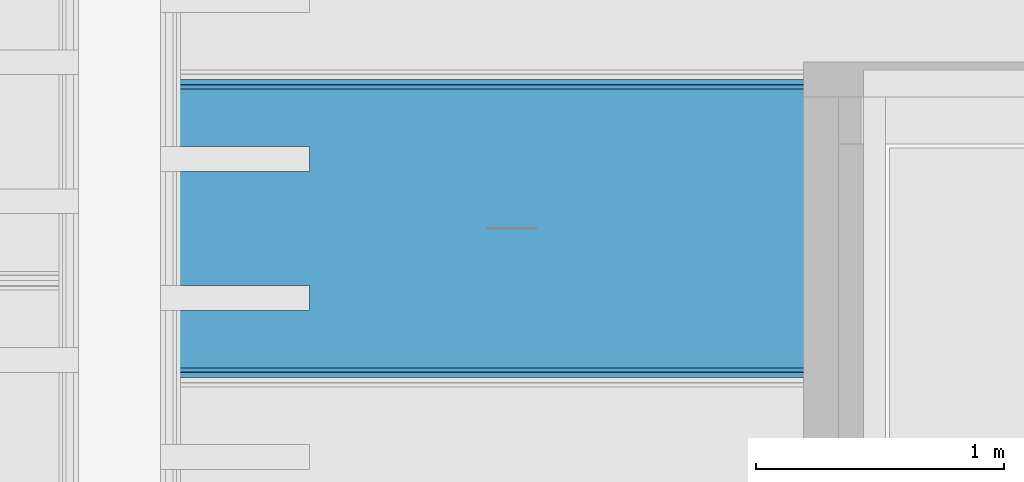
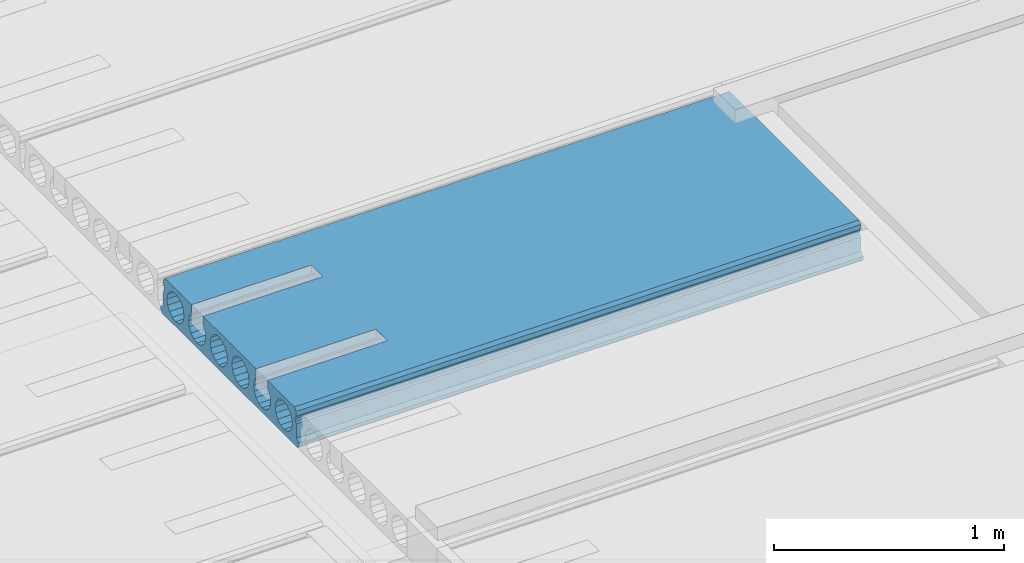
# One storey, part 129 of 230: 1 beam.
"""IFC4X3_ADD2 building model written with IfcOpenShell, lengths in millimetres."""

from ifc_helpers import new_model, si_unit, direction, origin_with_axes, place, context, subcontext, project, spatial, polygons, element, save


model = new_model("IFC4X3_ADD2")

# Units and contexts
model_context = context("Model", 3, precision=1e-05, world=origin_with_axes(), true_north=direction((0.0, 1.0)))
body_context = subcontext(model_context, "Body", "Model", "MODEL_VIEW")
ifc_project = project(units=[si_unit("LENGTHUNIT", "METRE", prefix="MILLI"), si_unit("AREAUNIT", "SQUARE_METRE"), si_unit("VOLUMEUNIT", "CUBIC_METRE"), si_unit("PLANEANGLEUNIT", "RADIAN"), si_unit("TIMEUNIT", "SECOND"), si_unit("MASSUNIT", "GRAM")], contexts=[model_context])

# Site, building, storey
site_placement = place(None, origin_with_axes())
site = spatial("IfcSite", under=ifc_project, at=site_placement, Name="Site", CompositionType="ELEMENT")
building_placement = place(site_placement, origin_with_axes())
building = spatial("IfcBuilding", under=site, at=building_placement, Name="IFC Building Story")
storey_placement = place(building_placement, origin_with_axes())
storey = spatial("IfcBuildingStorey", under=building, at=storey_placement, Name="ETAGE 00 (0)", Elevation=0.0)

# Beam
beam_placement = place(storey_placement, origin_with_axes())
element("IfcBeam", 1, at=beam_placement, inside=storey, Name="HOLLOWCORE SLAB", ObjectType="EB_SP200", context=body_context, shape_type="Tessellation", body=[
    polygons([(40131.189, 20149.0, 3999.9999909), (40131.189, 18971.0, 3999.9999909), (40131.189, 18960.0, 4012.9999909), (40131.189, 18960.0, 4029.9999909), (40131.189, 18980.0, 4044.9999909), (40131.189, 18981.45001220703, 4119.9999909), (40131.189, 18988.98262147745, 4128.676139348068), (40131.189, 18991.83993001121, 4139.805000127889), (40131.189, 18989.41863641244, 4151.036789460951), (40131.189, 18982.22998046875, 4159.9999909), (40131.189, 18982.71129616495, 4185.002769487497), (40131.189, 18998.0, 4199.9999909), (40131.189, 19230.0, 4199.9999909), (40131.189, 19230.0, 4155.806158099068), (40131.189, 19225.32054480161, 4152.679446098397), (40131.189, 19209.17097482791, 4128.509906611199), (40131.189, 19203.5, 4099.9999909), (40131.189, 19209.17097482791, 4071.490075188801), (40131.189, 19225.32054480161, 4047.320535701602), (40131.189, 19249.4900842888, 4031.170965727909), (40131.189, 19278.0, 4025.4999909), (40131.189, 19306.5099157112, 4031.170965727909), (40131.189, 19330.6794551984, 4047.320535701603), (40131.189, 19346.82902517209, 4071.490075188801), (40131.189, 19352.5, 4099.9999909), (40131.189, 19346.82902517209, 4128.509906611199), (40131.189, 19330.6794551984, 4152.679446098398), (40131.189, 19330.0, 4153.133443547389), (40131.189, 19330.0, 4199.9999909), (40131.189, 19790.0, 4199.9999909), (40131.189, 19790.0, 4153.133443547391), (40131.189, 19789.32054480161, 4152.679446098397), (40131.189, 19773.17097482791, 4128.509906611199), (40131.189, 19767.5, 4099.9999909), (40131.189, 19773.17097482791, 4071.490075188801), (40131.189, 19789.3205448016, 4047.320535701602), (40131.189, 19813.4900842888, 4031.170965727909), (40131.189, 19842.0, 4025.4999909), (40131.189, 19870.5099157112, 4031.170965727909), (40131.189, 19894.6794551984, 4047.320535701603), (40131.189, 19910.82902517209, 4071.490075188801), (40131.189, 19916.5, 4099.9999909), (40131.189, 19910.82902517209, 4128.509906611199), (40131.189, 19894.6794551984, 4152.679446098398), (40131.189, 19890.0, 4155.806158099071), (40131.189, 19890.0, 4199.9999909), (40131.189, 20122.0, 4199.9999909), (40131.189, 20137.28870383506, 4185.002769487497), (40131.189, 20137.77001953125, 4159.9999909), (40131.189, 20130.58136358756, 4151.036789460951), (40131.189, 20128.1600699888, 4139.805000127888), (40131.189, 20131.01737852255, 4128.676139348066), (40131.189, 20138.54998779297, 4119.9999909), (40131.189, 20140.0, 4044.9999909), (40131.189, 20160.0, 4029.9999909), (40131.189, 20160.0, 4012.9999909), (40131.189, 20082.6794551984, 4152.679446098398), (40131.189, 20058.5099157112, 4168.829016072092), (40131.189, 20030.0, 4174.4999909), (40131.189, 20001.4900842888, 4168.829016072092), (40131.189, 19977.32054480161, 4152.679446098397), (40131.189, 19961.17097482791, 4128.509906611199), (40131.189, 19955.5, 4099.9999909), (40131.189, 19961.17097482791, 4071.490075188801), (40131.189, 19977.3205448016, 4047.320535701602), (40131.189, 20001.4900842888, 4031.170965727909), (40131.189, 20030.0, 4025.4999909), (40131.189, 20058.5099157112, 4031.170965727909), (40131.189, 20082.6794551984, 4047.320535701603), (40131.189, 20098.82902517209, 4071.490075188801), (40131.189, 20104.5, 4099.9999909), (40131.189, 20098.82902517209, 4128.509906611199), (40131.189, 19706.6794551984, 4152.679446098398), (40131.189, 19682.5099157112, 4168.829016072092), (40131.189, 19654.0, 4174.4999909), (40131.189, 19625.4900842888, 4168.829016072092), (40131.189, 19601.32054480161, 4152.679446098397), (40131.189, 19585.17097482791, 4128.509906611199), (40131.189, 19579.5, 4099.9999909), (40131.189, 19585.17097482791, 4071.490075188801), (40131.189, 19601.32054480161, 4047.320535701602), (40131.189, 19625.4900842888, 4031.170965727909), (40131.189, 19654.0, 4025.4999909), (40131.189, 19682.5099157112, 4031.170965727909), (40131.189, 19706.6794551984, 4047.320535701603), (40131.189, 19722.82902517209, 4071.490075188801), (40131.189, 19728.5, 4099.9999909), (40131.189, 19722.82902517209, 4128.509906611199), (40131.189, 19518.6794551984, 4152.679446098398), (40131.189, 19494.5099157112, 4168.829016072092), (40131.189, 19466.0, 4174.4999909), (40131.189, 19437.4900842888, 4168.829016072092), (40131.189, 19413.32054480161, 4152.679446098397), (40131.189, 19397.17097482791, 4128.509906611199), (40131.189, 19391.5, 4099.9999909), (40131.189, 19397.17097482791, 4071.490075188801), (40131.189, 19413.32054480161, 4047.320535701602), (40131.189, 19437.4900842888, 4031.170965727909), (40131.189, 19466.0, 4025.4999909), (40131.189, 19494.5099157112, 4031.170965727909), (40131.189, 19518.6794551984, 4047.320535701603), (40131.189, 19534.82902517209, 4071.490075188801), (40131.189, 19540.5, 4099.9999909), (40131.189, 19534.8290251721, 4128.509906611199), (40131.189, 19142.6794551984, 4152.679446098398), (40131.189, 19118.5099157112, 4168.829016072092), (40131.189, 19090.0, 4174.4999909), (40131.189, 19061.49008428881, 4168.829016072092), (40131.189, 19037.3205448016, 4152.679446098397), (40131.189, 19021.17097482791, 4128.509906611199), (40131.189, 19015.5, 4099.9999909), (40131.189, 19021.17097482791, 4071.490075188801), (40131.189, 19037.32054480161, 4047.320535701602), (40131.189, 19061.49008428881, 4031.170965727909), (40131.189, 19090.0, 4025.4999909), (40131.189, 19118.5099157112, 4031.170965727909), (40131.189, 19142.6794551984, 4047.320535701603), (40131.189, 19158.82902517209, 4071.490075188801), (40131.189, 19164.5, 4099.9999909), (40131.189, 19158.82902517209, 4128.509906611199), (42962.189, 20149.0, 3999.9999909), (42962.189, 20160.0, 4012.9999909), (42962.189, 20160.0, 4029.9999909), (42962.189, 20140.0, 4044.9999909), (42962.189, 20138.54998779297, 4119.9999909), (42962.189, 20131.01737852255, 4128.676139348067), (42962.189, 20128.16006998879, 4139.805000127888), (42962.189, 20130.58136358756, 4151.036789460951), (42962.189, 20137.77001953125, 4159.9999909), (42962.189, 20137.28870383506, 4185.002769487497), (42962.189, 20122.0, 4199.9999909), (42962.189, 18998.0, 4199.9999909), (42962.189, 18982.71129616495, 4185.002769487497), (42962.189, 18982.22998046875, 4159.9999909), (42962.189, 18989.41863641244, 4151.036789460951), (42962.189, 18991.83993001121, 4139.805000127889), (42962.189, 18988.98262147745, 4128.676139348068), (42962.189, 18981.45001220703, 4119.9999909), (42962.189, 18980.0, 4044.9999909), (42962.189, 18960.0, 4029.9999909), (42962.189, 18960.0, 4012.9999909), (42962.189, 18971.0, 3999.9999909), (42962.189, 20082.6794551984, 4152.679446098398), (42962.189, 20098.82902517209, 4128.509906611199), (42962.189, 20104.5, 4099.9999909), (42962.189, 20098.82902517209, 4071.490075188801), (42962.189, 20082.6794551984, 4047.320535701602), (42962.189, 20058.5099157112, 4031.170965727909), (42962.189, 20030.0, 4025.4999909), (42962.189, 20001.4900842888, 4031.170965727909), (42962.189, 19977.3205448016, 4047.320535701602), (42962.189, 19961.17097482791, 4071.490075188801), (42962.189, 19955.5, 4099.9999909), (42962.189, 19961.17097482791, 4128.509906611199), (42962.189, 19977.3205448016, 4152.679446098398), (42962.189, 20001.4900842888, 4168.829016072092), (42962.189, 20030.0, 4174.4999909), (42962.189, 20058.5099157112, 4168.829016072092), (42962.189, 19894.6794551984, 4152.679446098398), (42962.189, 19910.82902517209, 4128.509906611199), (42962.189, 19916.5, 4099.9999909), (42962.189, 19910.82902517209, 4071.490075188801), (42962.189, 19894.6794551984, 4047.320535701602), (42962.189, 19870.5099157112, 4031.170965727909), (42962.189, 19842.0, 4025.4999909), (42962.189, 19813.4900842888, 4031.170965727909), (42962.189, 19789.3205448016, 4047.320535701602), (42962.189, 19773.17097482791, 4071.490075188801), (42962.189, 19767.5, 4099.9999909), (42962.189, 19773.17097482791, 4128.509906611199), (42962.189, 19789.3205448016, 4152.679446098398), (42962.189, 19813.4900842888, 4168.829016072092), (42962.189, 19842.0, 4174.4999909), (42962.189, 19870.5099157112, 4168.829016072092), (42962.189, 19706.6794551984, 4152.679446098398), (42962.189, 19722.82902517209, 4128.509906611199), (42962.189, 19728.5, 4099.9999909), (42962.189, 19722.82902517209, 4071.490075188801), (42962.189, 19706.6794551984, 4047.320535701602), (42962.189, 19682.5099157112, 4031.170965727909), (42962.189, 19654.0, 4025.4999909), (42962.189, 19625.4900842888, 4031.170965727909), (42962.189, 19601.3205448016, 4047.320535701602), (42962.189, 19585.17097482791, 4071.490075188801), (42962.189, 19579.5, 4099.9999909), (42962.189, 19585.17097482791, 4128.509906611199), (42962.189, 19601.3205448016, 4152.679446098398), (42962.189, 19625.4900842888, 4168.829016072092), (42962.189, 19654.0, 4174.4999909), (42962.189, 19682.5099157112, 4168.829016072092), (42962.189, 19518.6794551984, 4152.679446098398), (42962.189, 19534.82902517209, 4128.509906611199), (42962.189, 19540.5, 4099.9999909), (42962.189, 19534.82902517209, 4071.490075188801), (42962.189, 19518.6794551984, 4047.320535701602), (42962.189, 19494.5099157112, 4031.170965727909), (42962.189, 19466.0, 4025.4999909), (42962.189, 19437.4900842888, 4031.170965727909), (42962.189, 19413.32054480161, 4047.320535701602), (42962.189, 19397.17097482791, 4071.490075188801), (42962.189, 19391.5, 4099.9999909), (42962.189, 19397.17097482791, 4128.509906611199), (42962.189, 19413.32054480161, 4152.679446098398), (42962.189, 19437.4900842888, 4168.829016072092), (42962.189, 19466.0, 4174.4999909), (42962.189, 19494.5099157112, 4168.829016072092), (42962.189, 19330.6794551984, 4152.679446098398), (42962.189, 19346.82902517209, 4128.509906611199), (42962.189, 19352.5, 4099.9999909), (42962.189, 19346.82902517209, 4071.490075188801), (42962.189, 19330.6794551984, 4047.320535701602), (42962.189, 19306.5099157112, 4031.170965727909), (42962.189, 19278.0, 4025.4999909), (42962.189, 19249.4900842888, 4031.170965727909), (42962.189, 19225.32054480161, 4047.320535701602), (42962.189, 19209.17097482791, 4071.490075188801), (42962.189, 19203.5, 4099.9999909), (42962.189, 19209.17097482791, 4128.509906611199), (42962.189, 19225.32054480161, 4152.679446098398), (42962.189, 19249.4900842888, 4168.829016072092), (42962.189, 19278.0, 4174.4999909), (42962.189, 19306.5099157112, 4168.829016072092), (42962.189, 19142.6794551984, 4152.679446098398), (42962.189, 19158.82902517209, 4128.509906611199), (42962.189, 19164.5, 4099.9999909), (42962.189, 19158.82902517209, 4071.490075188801), (42962.189, 19142.6794551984, 4047.320535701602), (42962.189, 19118.5099157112, 4031.170965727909), (42962.189, 19090.0, 4025.4999909), (42962.189, 19061.49008428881, 4031.170965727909), (42962.189, 19037.32054480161, 4047.320535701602), (42962.189, 19021.17097482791, 4071.490075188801), (42962.189, 19015.5, 4099.9999909), (42962.189, 19021.17097482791, 4128.509906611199), (42962.189, 19037.32054480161, 4152.679446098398), (42962.189, 19061.49008428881, 4168.829016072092), (42962.189, 19090.0, 4174.4999909), (42962.189, 19118.5099157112, 4168.829016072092), (40731.189, 19890.0, 4199.9999909), (40731.189, 19790.0, 4199.9999909), (40731.189, 19330.0, 4199.9999909), (40731.189, 19230.0, 4199.9999909), (40731.189, 19870.50991571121, 4168.82901607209), (40731.189, 19890.0, 4155.806158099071), (40731.189, 19842.0, 4174.4999909), (40731.189, 19813.49008428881, 4168.829016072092), (40731.189, 19790.0, 4153.133443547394), (40731.189, 19306.50991571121, 4168.829016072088), (40731.189, 19330.0, 4153.13344354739), (40731.189, 19278.0, 4174.4999909), (40731.189, 19249.4900842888, 4168.829016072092), (40731.189, 19230.0, 4155.806158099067), (40731.189, 19790.0, 4199.999996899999), (40731.189, 19890.0, 4199.999996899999), (40731.189, 19230.0, 4199.999996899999), (40731.189, 19330.0, 4199.999996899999)], [[[27, 28, 29]], [[92, 93, 26]], [[92, 26, 27]], [[92, 27, 29]], [[29, 91, 92]], [[91, 29, 30]], [[30, 90, 91]], [[30, 89, 90]], [[94, 95, 25]], [[94, 25, 26]], [[26, 93, 94]], [[96, 97, 24]], [[24, 25, 95]], [[24, 95, 96]], [[97, 23, 24]], [[76, 77, 104]], [[76, 104, 89]], [[89, 75, 76]], [[75, 89, 30]], [[30, 74, 75]], [[30, 73, 74]], [[78, 79, 103]], [[78, 103, 104]], [[104, 77, 78]], [[80, 81, 102]], [[102, 103, 79]], [[102, 79, 80]], [[81, 101, 102]], [[88, 73, 30]], [[88, 30, 31]], [[33, 34, 87]], [[33, 87, 88]], [[88, 32, 33]], [[88, 31, 32]], [[35, 36, 86]], [[86, 87, 34]], [[86, 34, 35]], [[36, 85, 86]], [[44, 45, 46]], [[60, 61, 43]], [[60, 43, 44]], [[60, 44, 46]], [[46, 59, 60]], [[46, 47, 59]], [[47, 58, 59]], [[47, 57, 58]], [[62, 63, 42]], [[62, 42, 43]], [[43, 61, 62]], [[64, 65, 41]], [[41, 42, 63]], [[41, 63, 64]], [[50, 51, 72]], [[50, 72, 57]], [[57, 47, 48]], [[57, 48, 49]], [[57, 49, 50]], [[52, 53, 71]], [[52, 71, 72]], [[72, 51, 52]], [[53, 54, 70]], [[53, 70, 71]], [[54, 55, 56]], [[54, 56, 1]], [[1, 69, 70]], [[1, 70, 54]], [[1, 68, 69]], [[1, 67, 68]], [[1, 66, 67]], [[1, 40, 66]], [[40, 41, 65]], [[40, 65, 66]], [[1, 39, 40]], [[1, 38, 39]], [[1, 84, 38]], [[84, 37, 38]], [[84, 85, 36]], [[84, 36, 37]], [[1, 83, 84]], [[1, 100, 83]], [[100, 82, 83]], [[100, 101, 81]], [[100, 81, 82]], [[1, 99, 100]], [[1, 22, 99]], [[22, 98, 99]], [[22, 23, 97]], [[22, 97, 98]], [[1, 21, 22]], [[1, 2, 21]], [[2, 20, 21]], [[2, 19, 20]], [[9, 10, 11]], [[9, 11, 12]], [[109, 110, 8]], [[109, 8, 9]], [[9, 12, 108]], [[9, 108, 109]], [[12, 107, 108]], [[107, 12, 13]], [[13, 106, 107]], [[13, 105, 106]], [[110, 7, 8]], [[112, 113, 5]], [[5, 6, 111]], [[5, 111, 112]], [[6, 7, 110]], [[6, 110, 111]], [[116, 117, 18]], [[116, 18, 19]], [[19, 115, 116]], [[19, 2, 115]], [[2, 114, 115]], [[2, 5, 113]], [[2, 113, 114]], [[2, 3, 4]], [[2, 4, 5]], [[118, 119, 17]], [[118, 17, 18]], [[18, 117, 118]], [[120, 105, 16]], [[16, 17, 119]], [[16, 119, 120]], [[105, 13, 15]], [[105, 15, 16]], [[13, 14, 15]], [[174, 159, 131]], [[131, 173, 174]], [[131, 190, 173]], [[190, 172, 173]], [[190, 175, 171]], [[190, 171, 172]], [[131, 189, 190]], [[131, 206, 189]], [[206, 188, 189]], [[206, 191, 187]], [[206, 187, 188]], [[131, 205, 206]], [[131, 222, 205]], [[222, 204, 205]], [[222, 207, 203]], [[222, 203, 204]], [[131, 221, 222]], [[131, 132, 221]], [[132, 220, 221]], [[139, 140, 141]], [[139, 141, 142]], [[128, 129, 130]], [[128, 130, 131]], [[128, 131, 143]], [[143, 144, 127]], [[143, 127, 128]], [[144, 126, 127]], [[146, 147, 124]], [[124, 125, 145]], [[124, 145, 146]], [[125, 126, 144]], [[125, 144, 145]], [[158, 143, 131]], [[131, 157, 158]], [[131, 156, 157]], [[131, 159, 156]], [[159, 155, 156]], [[159, 154, 155]], [[160, 161, 153]], [[160, 153, 154]], [[154, 159, 160]], [[162, 163, 152]], [[152, 153, 161]], [[152, 161, 162]], [[163, 164, 151]], [[163, 151, 152]], [[164, 150, 151]], [[170, 171, 175]], [[176, 177, 169]], [[176, 169, 170]], [[170, 175, 176]], [[178, 179, 168]], [[168, 169, 177]], [[168, 177, 178]], [[179, 167, 168]], [[186, 187, 191]], [[192, 193, 185]], [[192, 185, 186]], [[186, 191, 192]], [[194, 195, 184]], [[184, 185, 193]], [[184, 193, 194]], [[195, 183, 184]], [[202, 203, 207]], [[208, 209, 201]], [[208, 201, 202]], [[202, 207, 208]], [[210, 211, 200]], [[200, 201, 209]], [[200, 209, 210]], [[211, 199, 200]], [[218, 219, 223]], [[224, 225, 217]], [[224, 217, 218]], [[218, 223, 224]], [[226, 227, 216]], [[216, 217, 225]], [[216, 225, 226]], [[233, 234, 137]], [[233, 137, 138]], [[138, 139, 232]], [[138, 232, 233]], [[139, 142, 231]], [[139, 231, 232]], [[142, 230, 231]], [[142, 229, 230]], [[142, 228, 229]], [[142, 215, 228]], [[215, 216, 227]], [[215, 227, 228]], [[142, 214, 215]], [[142, 213, 214]], [[142, 198, 213]], [[198, 212, 213]], [[198, 199, 211]], [[198, 211, 212]], [[142, 197, 198]], [[142, 182, 197]], [[182, 196, 197]], [[182, 183, 195]], [[182, 195, 196]], [[142, 181, 182]], [[142, 166, 181]], [[166, 180, 181]], [[166, 167, 179]], [[166, 179, 180]], [[142, 165, 166]], [[142, 149, 165]], [[149, 150, 164]], [[149, 164, 165]], [[142, 121, 149]], [[121, 148, 149]], [[121, 124, 147]], [[121, 147, 148]], [[121, 122, 123]], [[121, 123, 124]], [[234, 136, 137]], [[238, 223, 219]], [[238, 219, 220]], [[220, 237, 238]], [[220, 132, 237]], [[132, 236, 237]], [[132, 135, 235]], [[132, 235, 236]], [[135, 136, 234]], [[135, 234, 235]], [[132, 133, 134]], [[132, 134, 135]], [[2, 1, 121, 142]], [[3, 2, 142, 141]], [[4, 3, 141, 140]], [[5, 4, 140, 139]], [[6, 5, 139, 138]], [[7, 6, 138, 137]], [[8, 7, 137, 136]], [[9, 8, 136, 135]], [[10, 9, 135, 134]], [[11, 10, 134, 133]], [[12, 11, 133, 132]], [[240, 30, 29]], [[240, 29, 241]], [[242, 13, 12]], [[242, 12, 132]], [[132, 241, 242]], [[132, 131, 240]], [[132, 240, 241]], [[131, 239, 240]], [[131, 47, 239]], [[47, 46, 239]], [[48, 47, 131, 130]], [[49, 48, 130, 129]], [[50, 49, 129, 128]], [[51, 50, 128, 127]], [[52, 51, 127, 126]], [[53, 52, 126, 125]], [[54, 53, 125, 124]], [[55, 54, 124, 123]], [[56, 55, 123, 122]], [[1, 56, 122, 121]], [[58, 57, 143, 158]], [[59, 58, 158, 157]], [[60, 59, 157, 156]], [[61, 60, 156, 155]], [[62, 61, 155, 154]], [[63, 62, 154, 153]], [[64, 63, 153, 152]], [[65, 64, 152, 151]], [[66, 65, 151, 150]], [[67, 66, 150, 149]], [[68, 67, 149, 148]], [[69, 68, 148, 147]], [[70, 69, 147, 146]], [[71, 70, 146, 145]], [[72, 71, 145, 144]], [[57, 72, 144, 143]], [[244, 45, 44]], [[244, 44, 159]], [[159, 174, 243]], [[159, 243, 244]], [[174, 173, 245, 243]], [[173, 172, 246, 245]], [[247, 246, 172]], [[247, 172, 171]], [[171, 32, 247]], [[32, 31, 247]], [[33, 32, 171, 170]], [[34, 33, 170, 169]], [[35, 34, 169, 168]], [[36, 35, 168, 167]], [[37, 36, 167, 166]], [[38, 37, 166, 165]], [[39, 38, 165, 164]], [[40, 39, 164, 163]], [[41, 40, 163, 162]], [[42, 41, 162, 161]], [[43, 42, 161, 160]], [[44, 43, 160, 159]], [[74, 73, 175, 190]], [[75, 74, 190, 189]], [[76, 75, 189, 188]], [[77, 76, 188, 187]], [[78, 77, 187, 186]], [[79, 78, 186, 185]], [[80, 79, 185, 184]], [[81, 80, 184, 183]], [[82, 81, 183, 182]], [[83, 82, 182, 181]], [[84, 83, 181, 180]], [[85, 84, 180, 179]], [[86, 85, 179, 178]], [[87, 86, 178, 177]], [[88, 87, 177, 176]], [[73, 88, 176, 175]], [[90, 89, 191, 206]], [[91, 90, 206, 205]], [[92, 91, 205, 204]], [[93, 92, 204, 203]], [[94, 93, 203, 202]], [[95, 94, 202, 201]], [[96, 95, 201, 200]], [[97, 96, 200, 199]], [[98, 97, 199, 198]], [[99, 98, 198, 197]], [[100, 99, 197, 196]], [[101, 100, 196, 195]], [[102, 101, 195, 194]], [[103, 102, 194, 193]], [[104, 103, 193, 192]], [[89, 104, 192, 191]], [[249, 28, 27]], [[249, 27, 207]], [[207, 222, 248]], [[207, 248, 249]], [[222, 221, 250, 248]], [[221, 220, 251, 250]], [[252, 251, 220]], [[252, 220, 219]], [[219, 15, 252]], [[15, 14, 252]], [[16, 15, 219, 218]], [[17, 16, 218, 217]], [[18, 17, 217, 216]], [[19, 18, 216, 215]], [[20, 19, 215, 214]], [[21, 20, 214, 213]], [[22, 21, 213, 212]], [[23, 22, 212, 211]], [[24, 23, 211, 210]], [[25, 24, 210, 209]], [[26, 25, 209, 208]], [[27, 26, 208, 207]], [[106, 105, 223, 238]], [[107, 106, 238, 237]], [[108, 107, 237, 236]], [[109, 108, 236, 235]], [[110, 109, 235, 234]], [[111, 110, 234, 233]], [[112, 111, 233, 232]], [[113, 112, 232, 231]], [[114, 113, 231, 230]], [[115, 114, 230, 229]], [[116, 115, 229, 228]], [[117, 116, 228, 227]], [[118, 117, 227, 226]], [[119, 118, 226, 225]], [[120, 119, 225, 224]], [[105, 120, 224, 223]], [[46, 45, 244, 239]], [[31, 30, 253, 247]], [[246, 247, 240]], [[240, 254, 245]], [[240, 245, 246]], [[254, 243, 245]], [[254, 244, 243]], [[249, 241, 29, 28]], [[255, 252, 14, 13]], [[251, 252, 242]], [[242, 250, 251]], [[242, 256, 248]], [[242, 248, 250]], [[256, 249, 248]]]),
])

save(model, "model.ifc")
